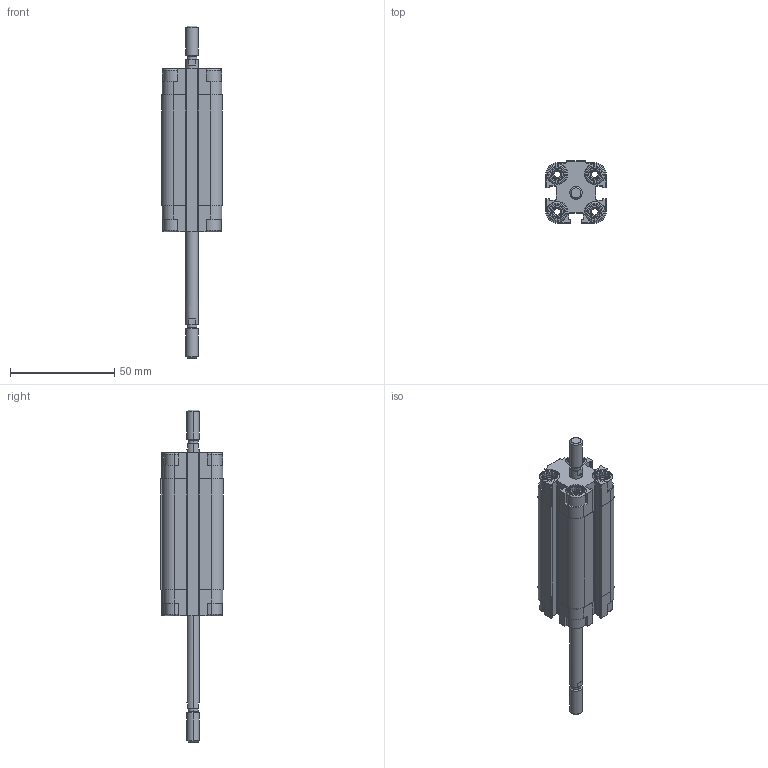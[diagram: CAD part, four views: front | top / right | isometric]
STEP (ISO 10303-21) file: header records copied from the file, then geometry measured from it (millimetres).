
FILE_DESCRIPTION (( 'STEP AP203' ), '1' );
FILE_NAME ('CDVU12-40M-P.STEP', '2020-07-21T14:56:47', ( '' ), ( '' ), 'SwSTEP 2.0', 'SolidWorks 2019', '' );
FILE_SCHEMA (( 'CONFIG_CONTROL_DESIGN' ));
Length unit declared in the file: millimetre
Products named in the file (1): CDVU12-40M-P
Bounding box: 29 x 30 x 159 mm (x, y, z)
Volume: 47827.2 mm3; surface area: 25205.6 mm2
Topology: 2 solids, 2 shells, 566 faces, 1504 edges, 978 vertices
Faces by surface type: plane 338, cylinder 164, cone 48, torus 16
Entity records: 17771 total; most frequent: CARTESIAN_POINT 3621, ORIENTED_EDGE 3000, DIRECTION 2850, EDGE_CURVE 1500, VERTEX_POINT 978, AXIS2_PLACEMENT_3D 975, LINE 900, VECTOR 900
